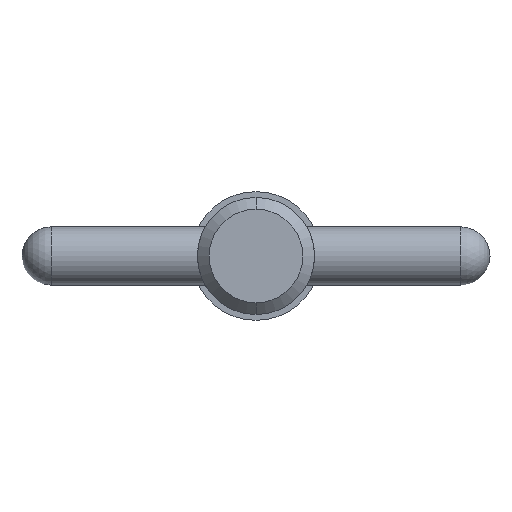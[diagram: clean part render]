
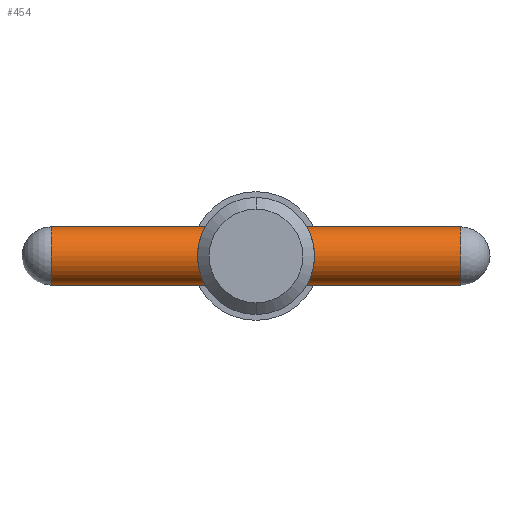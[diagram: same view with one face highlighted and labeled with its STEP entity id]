
A CAD part, left-side view. The second image highlights one B-rep face of the part: STEP entity #454.
In plain terms, the highlighted cylindrical face has radius 1.585 mm (diameter 3.17 mm), a partial arc.
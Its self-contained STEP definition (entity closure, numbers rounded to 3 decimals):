
#98 = ORIENTED_EDGE ( 'NONE', *, *, #968, .T. ) ;
#100 = CARTESIAN_POINT ( 'NONE',  ( 0., 12.7, 0. ) ) ;
#177 = LINE ( 'NONE', #462, #580 ) ;
#181 = CARTESIAN_POINT ( 'NONE',  ( 0., -11.115, 0. ) ) ;
#184 = VERTEX_POINT ( 'NONE', #994 ) ;
#265 = AXIS2_PLACEMENT_3D ( 'NONE', #400, #871, #978 ) ;
#302 = VERTEX_POINT ( 'NONE', #611 ) ;
#312 = ORIENTED_EDGE ( 'NONE', *, *, #856, .F. ) ;
#324 = EDGE_CURVE ( 'NONE', #302, #930, #343, .T. ) ;
#343 = CIRCLE ( 'NONE', #265, 1.585 ) ;
#351 = EDGE_CURVE ( 'NONE', #518, #184, #891, .T. ) ;
#400 = CARTESIAN_POINT ( 'NONE',  ( 0., 11.115, 0. ) ) ;
#434 = CARTESIAN_POINT ( 'NONE',  ( 0., 12.7, 1.585 ) ) ;
#450 = ORIENTED_EDGE ( 'NONE', *, *, #351, .T. ) ;
#454 = ADVANCED_FACE ( 'NONE', ( #560 ), #933, .T. ) ;
#459 = AXIS2_PLACEMENT_3D ( 'NONE', #100, #649, #857 ) ;
#462 = CARTESIAN_POINT ( 'NONE',  ( 0., 12.7, -1.585 ) ) ;
#518 = VERTEX_POINT ( 'NONE', #958 ) ;
#524 = VECTOR ( 'NONE', #537, 1000. ) ;
#537 = DIRECTION ( 'NONE',  ( 0., -1., 0. ) ) ;
#539 = DIRECTION ( 'NONE',  ( 0., 1., 0. ) ) ;
#543 = DIRECTION ( 'NONE',  ( 0., -1., 0. ) ) ;
#560 = FACE_OUTER_BOUND ( 'NONE', #701, .T. ) ;
#562 = AXIS2_PLACEMENT_3D ( 'NONE', #181, #539, #773 ) ;
#580 = VECTOR ( 'NONE', #543, 1000. ) ;
#611 = CARTESIAN_POINT ( 'NONE',  ( 0., 11.115, 1.585 ) ) ;
#649 = DIRECTION ( 'NONE',  ( 0., -1., 0. ) ) ;
#701 = EDGE_LOOP ( 'NONE', ( #312, #858, #98, #450 ) ) ;
#773 = DIRECTION ( 'NONE',  ( 0., 0., -1. ) ) ;
#784 = CARTESIAN_POINT ( 'NONE',  ( 0., 11.115, -1.585 ) ) ;
#856 = EDGE_CURVE ( 'NONE', #302, #184, #916, .T. ) ;
#857 = DIRECTION ( 'NONE',  ( 0., 0., -1. ) ) ;
#858 = ORIENTED_EDGE ( 'NONE', *, *, #324, .T. ) ;
#871 = DIRECTION ( 'NONE',  ( 0., -1., 0. ) ) ;
#891 = CIRCLE ( 'NONE', #562, 1.585 ) ;
#916 = LINE ( 'NONE', #434, #524 ) ;
#930 = VERTEX_POINT ( 'NONE', #784 ) ;
#933 = CYLINDRICAL_SURFACE ( 'NONE', #459, 1.585 ) ;
#958 = CARTESIAN_POINT ( 'NONE',  ( 0., -11.115, -1.585 ) ) ;
#968 = EDGE_CURVE ( 'NONE', #930, #518, #177, .T. ) ;
#978 = DIRECTION ( 'NONE',  ( 0., 0., -1. ) ) ;
#994 = CARTESIAN_POINT ( 'NONE',  ( 0., -11.115, 1.585 ) ) ;
